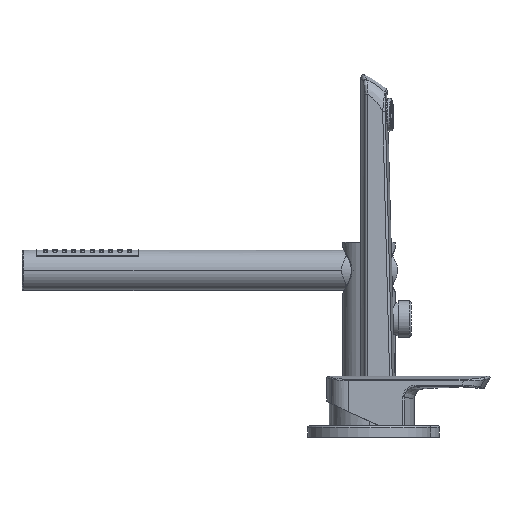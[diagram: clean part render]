
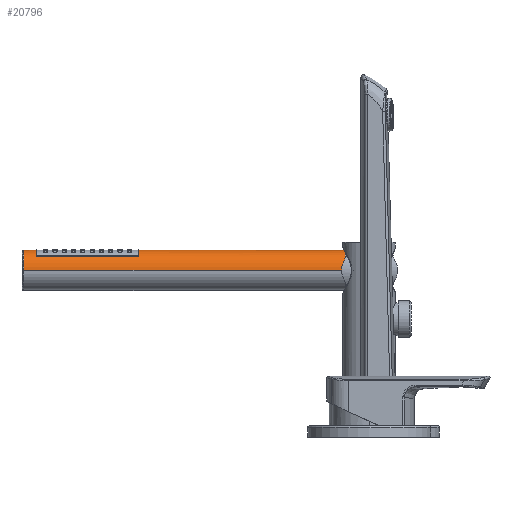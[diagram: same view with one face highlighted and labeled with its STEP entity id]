
A CAD part, left-side view. The second image highlights one B-rep face of the part: STEP entity #20796.
In plain terms, the highlighted cylindrical face has radius 11.5 mm (diameter 23 mm), a partial arc.
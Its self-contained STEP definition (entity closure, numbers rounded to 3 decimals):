
#601 = AXIS2_PLACEMENT_3D ( 'NONE', #72376, #31118, #80855 ) ;
#3327 = ORIENTED_EDGE ( 'NONE', *, *, #26868, .T. ) ;
#3337 = ORIENTED_EDGE ( 'NONE', *, *, #6347, .F. ) ;
#6347 = EDGE_CURVE ( 'NONE', #85013, #16578, #19167, .T. ) ;
#7947 = AXIS2_PLACEMENT_3D ( 'NONE', #48909, #40884, #96619 ) ;
#11255 = CARTESIAN_POINT ( 'NONE',  ( 231.569, 150.97, 152.8 ) ) ;
#11853 = VERTEX_POINT ( 'NONE', #104444 ) ;
#15429 = CARTESIAN_POINT ( 'NONE',  ( 243.069, 131.27, 152.8 ) ) ;
#16431 = DIRECTION ( 'NONE',  ( 0., -1., 0. ) ) ;
#16578 = VERTEX_POINT ( 'NONE', #77195 ) ;
#17194 = ORIENTED_EDGE ( 'NONE', *, *, #73088, .T. ) ;
#17649 = AXIS2_PLACEMENT_3D ( 'NONE', #92601, #69295, #101691 ) ;
#19167 = LINE ( 'NONE', #11255, #50947 ) ;
#19411 = AXIS2_PLACEMENT_3D ( 'NONE', #15429, #16431, #33309 ) ;
#20427 = VERTEX_POINT ( 'NONE', #87089 ) ;
#20796 = ADVANCED_FACE ( 'NONE', ( #95840, #40637 ), #79387, .T. ) ;
#26868 = EDGE_CURVE ( 'NONE', #20427, #52061, #37607, .T. ) ;
#27264 = EDGE_CURVE ( 'NONE', #52061, #101755, #78334, .T. ) ;
#31118 = DIRECTION ( 'NONE',  ( 0., 1., 0. ) ) ;
#33309 = DIRECTION ( 'NONE',  ( -1., 0., 0. ) ) ;
#35489 = VERTEX_POINT ( 'NONE', #45575 ) ;
#36108 = LINE ( 'NONE', #61509, #71100 ) ;
#37607 = LINE ( 'NONE', #69903, #93545 ) ;
#38206 = ORIENTED_EDGE ( 'NONE', *, *, #27264, .T. ) ;
#38450 = EDGE_LOOP ( 'NONE', ( #76661, #72928, #17194, #3337 ) ) ;
#39500 = ORIENTED_EDGE ( 'NONE', *, *, #40498, .T. ) ;
#39599 = DIRECTION ( 'NONE',  ( 0., 1., 0. ) ) ;
#40279 = EDGE_LOOP ( 'NONE', ( #38206, #40552, #39500, #3327 ) ) ;
#40498 = EDGE_CURVE ( 'NONE', #40778, #20427, #75190, .T. ) ;
#40552 = ORIENTED_EDGE ( 'NONE', *, *, #80053, .T. ) ;
#40637 = FACE_OUTER_BOUND ( 'NONE', #38450, .T. ) ;
#40778 = VERTEX_POINT ( 'NONE', #96583 ) ;
#40884 = DIRECTION ( 'NONE',  ( 0., 1., 0. ) ) ;
#45575 = CARTESIAN_POINT ( 'NONE',  ( 254.569, 13.47, 152.8 ) ) ;
#48909 = CARTESIAN_POINT ( 'NONE',  ( 243.069, 13.47, 152.8 ) ) ;
#50947 = VECTOR ( 'NONE', #66786, 1000. ) ;
#52061 = VERTEX_POINT ( 'NONE', #62218 ) ;
#56118 = AXIS2_PLACEMENT_3D ( 'NONE', #79899, #39599, #72453 ) ;
#57088 = EDGE_CURVE ( 'NONE', #85013, #35489, #90715, .T. ) ;
#61509 = CARTESIAN_POINT ( 'NONE',  ( 251.219, 150.97, 160.913 ) ) ;
#62218 = CARTESIAN_POINT ( 'NONE',  ( 234.919, 189.77, 160.913 ) ) ;
#66786 = DIRECTION ( 'NONE',  ( 0., 1., 0. ) ) ;
#68242 = VECTOR ( 'NONE', #88640, 1000. ) ;
#69295 = DIRECTION ( 'NONE',  ( 0., -1., 0. ) ) ;
#69903 = CARTESIAN_POINT ( 'NONE',  ( 234.919, 150.97, 160.913 ) ) ;
#71100 = VECTOR ( 'NONE', #93307, 1000. ) ;
#71764 = EDGE_CURVE ( 'NONE', #35489, #11853, #81238, .T. ) ;
#72376 = CARTESIAN_POINT ( 'NONE',  ( 243.069, 189.77, 152.8 ) ) ;
#72453 = DIRECTION ( 'NONE',  ( -1., 0., 0. ) ) ;
#72928 = ORIENTED_EDGE ( 'NONE', *, *, #71764, .T. ) ;
#73088 = EDGE_CURVE ( 'NONE', #11853, #16578, #98855, .T. ) ;
#75190 = CIRCLE ( 'NONE', #19411, 11.5 ) ;
#76661 = ORIENTED_EDGE ( 'NONE', *, *, #57088, .T. ) ;
#77195 = CARTESIAN_POINT ( 'NONE',  ( 231.569, 196.97, 152.8 ) ) ;
#78334 = CIRCLE ( 'NONE', #601, 11.5 ) ;
#79387 = CYLINDRICAL_SURFACE ( 'NONE', #56118, 11.5 ) ;
#79899 = CARTESIAN_POINT ( 'NONE',  ( 243.069, 150.97, 152.8 ) ) ;
#80053 = EDGE_CURVE ( 'NONE', #101755, #40778, #36108, .T. ) ;
#80855 = DIRECTION ( 'NONE',  ( -1., 0., 0. ) ) ;
#81238 = LINE ( 'NONE', #103067, #68242 ) ;
#85013 = VERTEX_POINT ( 'NONE', #104619 ) ;
#87089 = CARTESIAN_POINT ( 'NONE',  ( 234.919, 131.27, 160.913 ) ) ;
#88640 = DIRECTION ( 'NONE',  ( 0., 1., 0. ) ) ;
#90715 = CIRCLE ( 'NONE', #7947, 11.5 ) ;
#92601 = CARTESIAN_POINT ( 'NONE',  ( 243.069, 196.97, 152.8 ) ) ;
#93307 = DIRECTION ( 'NONE',  ( 0., -1., 0. ) ) ;
#93545 = VECTOR ( 'NONE', #102301, 1000. ) ;
#95840 = FACE_BOUND ( 'NONE', #40279, .T. ) ;
#96583 = CARTESIAN_POINT ( 'NONE',  ( 251.219, 131.27, 160.913 ) ) ;
#96619 = DIRECTION ( 'NONE',  ( -1., 0., 0. ) ) ;
#98855 = CIRCLE ( 'NONE', #17649, 11.5 ) ;
#99414 = CARTESIAN_POINT ( 'NONE',  ( 251.219, 189.77, 160.913 ) ) ;
#101691 = DIRECTION ( 'NONE',  ( -1., 0., 0. ) ) ;
#101755 = VERTEX_POINT ( 'NONE', #99414 ) ;
#102301 = DIRECTION ( 'NONE',  ( 0., 1., 0. ) ) ;
#103067 = CARTESIAN_POINT ( 'NONE',  ( 254.569, 150.97, 152.8 ) ) ;
#104444 = CARTESIAN_POINT ( 'NONE',  ( 254.569, 196.97, 152.8 ) ) ;
#104619 = CARTESIAN_POINT ( 'NONE',  ( 231.569, 13.47, 152.8 ) ) ;
